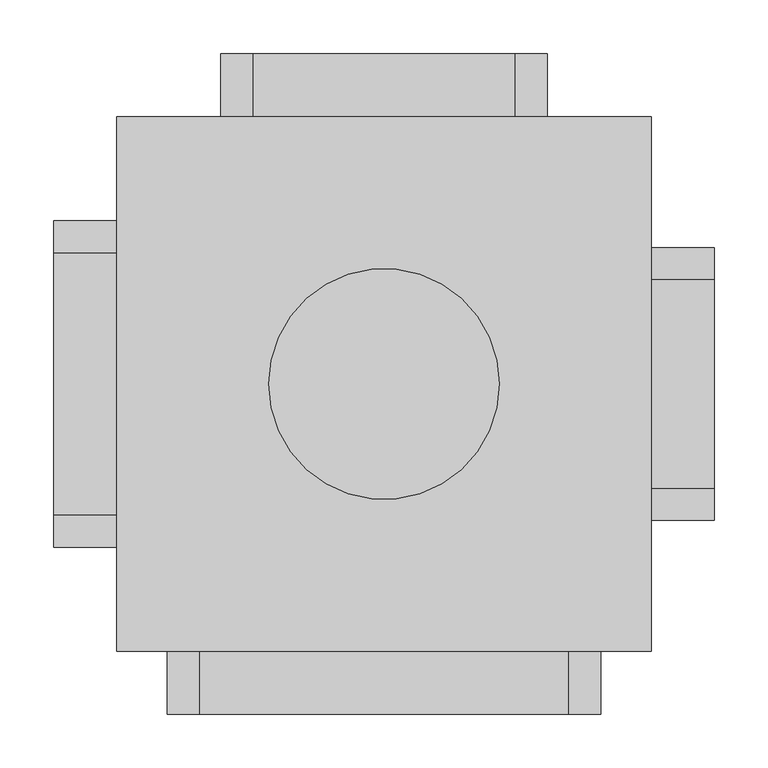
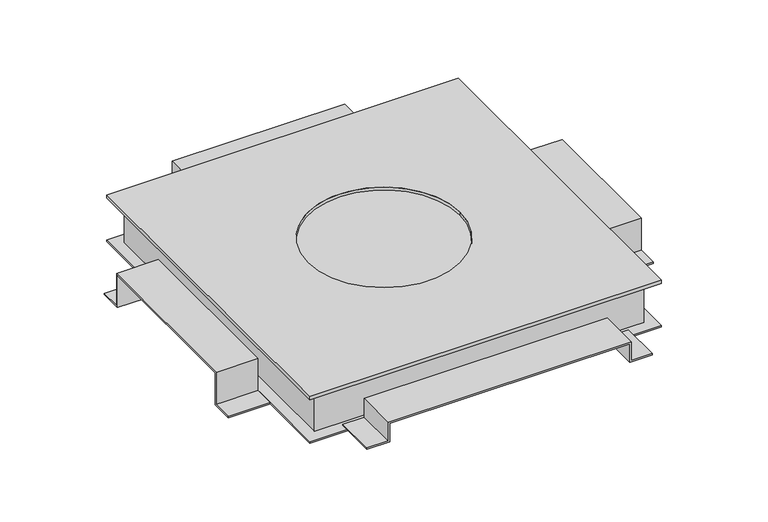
"""IFC4 building model written with IfcOpenShell, lengths in millimetres: cable carrier fitting geometry, Electrical-Installations_Hager_Universal-Junction-Box-With-Retaining-Tabs-Size-2 : Universal junction box with retaining tabs size 2."""

from ifc_helpers import new_model, si_unit, frame, origin, place, context, project, spatial, polyline, circle_curve, outline, extrude, faceted_brep, source, transform, mapped, element, save
from ifc_brep_helpers import plane_surface, revolved_surface, advanced_brep


def cable_carrier_fitting_62b491a6(model_context):
    return source(origin(), model_context, "Body", "SolidModel", [
        extrude(outline(polyline([(-14.0, -152.0), (-14.0, -120.0), (14.0, -120.0), (14.0, 120.0), (-14.0, 120.0), (-14.0, 152.0), (-12.0, 152.0), (-12.0, 122.0), (16.0, 122.0), (16.0, -122.0), (-12.0, -122.0), (-12.0, -152.0), (-14.0, -152.0)])), frame((0.0, 249.0, 0.0), z_axis=(0.0, 1.0, 0.0), x_axis=(0.0, 0.0, 1.0)), (0.0, 0.0, 1.0), 59.0),
        extrude(outline(polyline([(-152.0, -24.0), (-152.0, -22.0), (-122.0, -22.0), (-122.0, 26.0), (122.0, 26.0), (122.0, -22.0), (152.0, -22.0), (152.0, -24.0), (120.0, -24.0), (120.0, 24.0), (-120.0, 24.0), (-120.0, -24.0), (-152.0, -24.0)])), frame((-308.0, 0.0, 0.0), z_axis=(1.0, 0.0, 0.0), x_axis=(0.0, 1.0, 0.0)), (0.0, 0.0, 1.0), 59.0),
        extrude(outline(polyline([(-14.0, -202.0), (-14.0, -170.0), (14.0, -170.0), (14.0, 170.0), (-14.0, 170.0), (-14.0, 202.0), (-12.0, 202.0), (-12.0, 172.0), (16.0, 172.0), (16.0, -172.0), (-12.0, -172.0), (-12.0, -202.0), (-14.0, -202.0)])), frame((0.0, -308.0, 0.0), z_axis=(0.0, 1.0, 0.0), x_axis=(0.0, 0.0, 1.0)), (0.0, 0.0, 1.0), 59.0),
        extrude(outline(polyline([(-127.0, -24.0), (-127.0, -22.0), (-97.0, -22.0), (-97.0, 26.0), (97.0, 26.0), (97.0, -22.0), (127.0, -22.0), (127.0, -24.0), (95.0, -24.0), (95.0, 24.0), (-95.0, 24.0), (-95.0, -24.0), (-127.0, -24.0)])), frame((249.0, 0.0, 0.0), z_axis=(1.0, 0.0, 0.0), x_axis=(0.0, 1.0, 0.0)), (0.0, 0.0, 1.0), 59.0),
        advanced_brep(
        [(-249.0, -249.0, 46.0), (249.0, -249.0, 46.0), (249.0, 249.0, 46.0), (-249.0, 249.0, 46.0), (-107.5, 0.0, 46.0), (107.5, 0.0, 46.0), (-249.0, -249.0, 41.0), (-249.0, 249.0, 41.0), (249.0, 249.0, 41.0), (249.0, -249.0, 41.0), (227.0, 227.0, 41.0), (-227.0, 227.0, 41.0), (-227.0, -227.0, 41.0), (227.0, -227.0, 41.0), (-107.5, 0.0, 41.7820613), (107.5, 0.0, 41.7820613), (227.0, 227.0, 41.7820613), (227.0, -227.0, 41.7820613), (-227.0, -227.0, 41.7820613), (-227.0, 227.0, 41.7820613)],
        [
            (0, 1),
            (1, 2),
            (2, 3),
            (3, 0),
            (4, 5, circle_curve(frame((0.0, 0.0, 46.0), z_axis=(0.0, 0.0, -1.0), x_axis=(1.0, 0.0, 0.0)), 107.5)),
            (5, 4, circle_curve(frame((0.0, 0.0, 46.0), z_axis=(0.0, 0.0, -1.0), x_axis=(1.0, 0.0, 0.0)), 107.5)),
            (6, 7),
            (7, 8),
            (8, 9),
            (9, 6),
            (10, 11),
            (11, 12),
            (12, 13),
            (13, 10),
            (0, 6),
            (9, 1),
            (8, 2),
            (7, 3),
            (4, 14),
            (14, 15, circle_curve(frame((0.0, 0.0, 41.7820613), z_axis=(0.0, 0.0, -1.0), x_axis=(1.0, 0.0, 0.0)), 107.5)),
            (15, 5),
            (15, 14, circle_curve(frame((0.0, 0.0, 41.7820613), z_axis=(0.0, 0.0, -1.0), x_axis=(1.0, 0.0, 0.0)), 107.5)),
            (16, 17),
            (17, 18),
            (18, 19),
            (19, 16),
            (19, 11),
            (10, 16),
            (18, 12),
            (17, 13),
        ],
        [
            plane_surface(frame((-249.0, -249.0, 46.0), z_axis=(0.0, 0.0, 1.0), x_axis=(1.0, 0.0, 0.0))),
            plane_surface(frame((-249.0, -249.0, 41.0), z_axis=(0.0, 0.0, -1.0), x_axis=(-1.0, 0.0, 0.0))),
            plane_surface(frame((-249.0, -249.0, 46.0), z_axis=(0.0, -1.0, 0.0), x_axis=(0.0, 0.0, -1.0))),
            plane_surface(frame((249.0, -249.0, 46.0), z_axis=(1.0, 0.0, 0.0), x_axis=(0.0, 0.0, -1.0))),
            plane_surface(frame((249.0, 249.0, 46.0), z_axis=(0.0, 1.0, 0.0), x_axis=(0.0, 0.0, -1.0))),
            plane_surface(frame((-249.0, 249.0, 46.0), z_axis=(-1.0, 0.0, 0.0), x_axis=(0.0, 0.0, -1.0))),
            revolved_surface(polyline([(107.5, 0.0, 41.7820613), (107.5, 0.0, 46.0)]), (0.0, 0.0, 0.0), (0.0, 0.0, -1.0)),
            plane_surface(frame((-227.0, 227.0, 41.7820613), z_axis=(0.0, 0.0, -1.0), x_axis=(-1.0, 0.0, 0.0))),
            plane_surface(frame((227.0, 227.0, 41.7820613), z_axis=(0.0, -1.0, 0.0), x_axis=(0.0, 0.0, -1.0))),
            plane_surface(frame((-227.0, 227.0, 41.7820613), z_axis=(1.0, 0.0, 0.0), x_axis=(0.0, 0.0, -1.0))),
            plane_surface(frame((-227.0, -227.0, 41.7820613), z_axis=(0.0, 1.0, 0.0), x_axis=(0.0, 0.0, -1.0))),
            plane_surface(frame((227.0, -227.0, 41.7820613), z_axis=(-1.0, 0.0, 0.0), x_axis=(0.0, 0.0, -1.0))),
        ],
        [
            (0, [[1, 2, 3, 4], [5, 6]]),
            (1, [[7, 8, 9, 10], [11, 12, 13, 14]]),
            (2, [[-1, 15, -10, 16]]),
            (3, [[-2, -16, -9, 17]]),
            (4, [[-3, -17, -8, 18]]),
            (5, [[-4, -18, -7, -15]]),
            (6, [[-5, 19, 20, 21]]),
            (6, [[-6, -21, 22, -19]]),
            (7, [[23, 24, 25, 26], [-20, -22]]),
            (8, [[-26, 27, -11, 28]]),
            (9, [[-25, 29, -12, -27]]),
            (10, [[-24, 30, -13, -29]]),
            (11, [[-23, -28, -14, -30]]),
        ],
    ),
        extrude(outline(polyline([(249.0, 249.0), (249.0, -249.0), (-249.0, -249.0), (-249.0, 249.0), (249.0, 249.0)])), frame((0.0, 0.0, -24.0), z_axis=(0.0, 0.0, 1.0), x_axis=(1.0, 0.0, 0.0)), (0.0, 0.0, 1.0), 2.0),
        faceted_brep([(-233.0, 233.0, 41.0), (-233.0, -233.0, 41.0), (233.0, -233.0, 41.0), (233.0, 233.0, 41.0), (-227.0, 227.0, 41.0), (227.0, 227.0, 41.0), (227.0, -227.0, 41.0), (-227.0, -227.0, 41.0), (-233.0, 233.0, -24.0), (233.0, 233.0, -24.0), (233.0, -233.0, -24.0), (-233.0, -233.0, -24.0), (227.0, 227.0, -16.1362798), (-227.0, 227.0, -16.1362798), (-227.0, -227.0, -16.1362798), (227.0, -227.0, -16.1362798)], [[[0, 1, 2, 3], [4, 5, 6, 7]], [[8, 9, 10, 11]], [[1, 0, 8, 11]], [[2, 1, 11, 10]], [[3, 2, 10, 9]], [[0, 3, 9, 8]], [[12, 13, 14, 15]], [[13, 12, 5, 4]], [[14, 13, 4, 7]], [[15, 14, 7, 6]], [[12, 15, 6, 5]]]),
    ])


if __name__ == "__main__":
    model = new_model("IFC4")
    model_context = context("Model", 3, world=origin())
    ifc_project = project(units=[si_unit("LENGTHUNIT", "METRE", prefix="MILLI")], contexts=[model_context])
    site = spatial("IfcSite", under=ifc_project)
    building = spatial("IfcBuilding", under=site)
    placement = place(None, origin())
    cable_carrier_fitting_shape = cable_carrier_fitting_62b491a6(model_context)
    element("IfcCableCarrierFitting", 1, ObjectType="Electrical-Installations_Hager_Universal-Junction-Box-With-Retaining-Tabs-Size-2 : Universal junction box with retaining tabs size 2", at=placement, inside=building, context=model_context, shape_type="MappedRepresentation", body=[
        mapped(cable_carrier_fitting_shape, transform((0.0, 0.0, 0.0), x_axis=(1.0, 0.0, 0.0), y_axis=(0.0, 1.0, 0.0), z_axis=(0.0, 0.0, 1.0))),
    ])
    save(model, "model.ifc")
